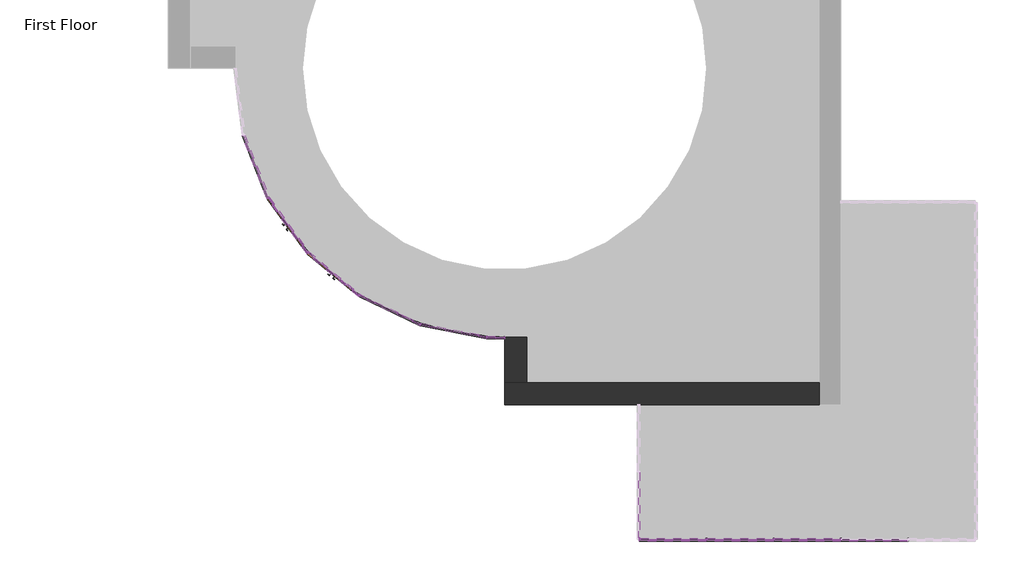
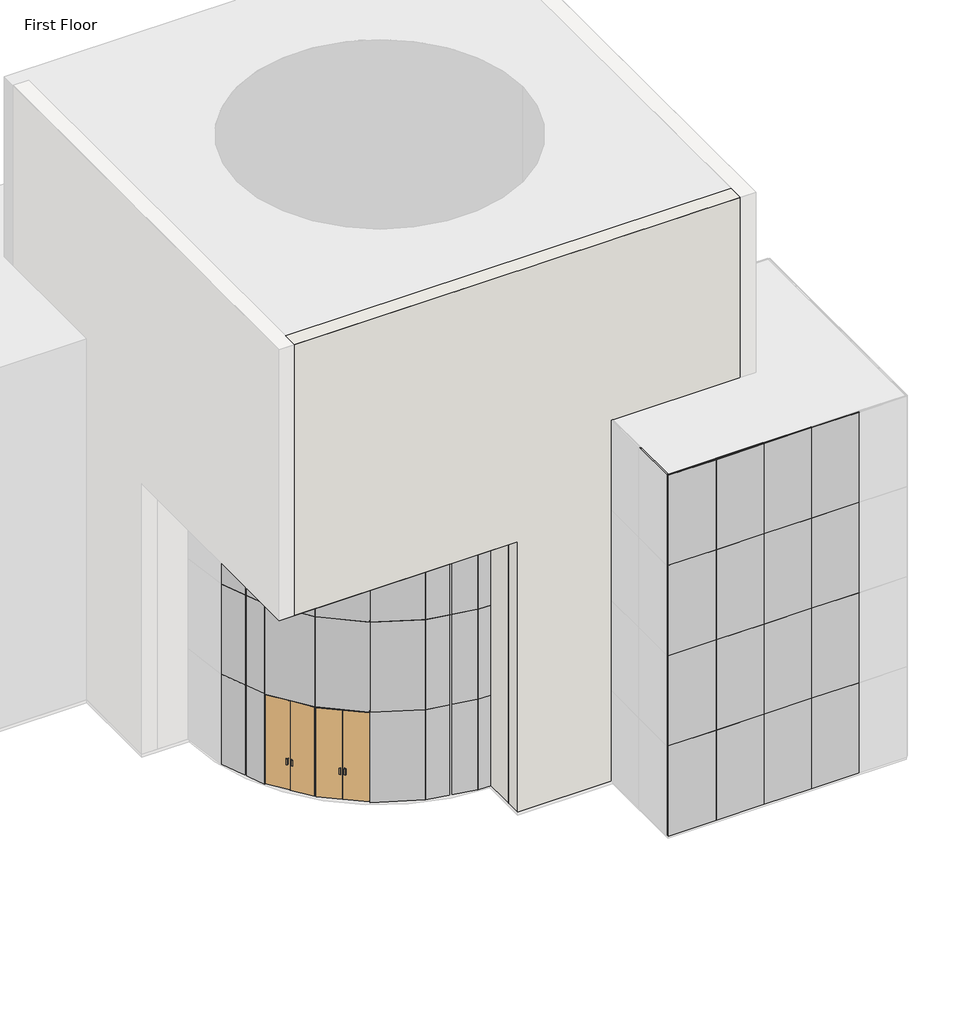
# One storey, part 1 of 4: 82 members, 32 plates, 2 doors, 2 walls.
"""IFC4 building model written with IfcOpenShell, lengths in millimetres."""

from ifc_helpers import new_model, si_unit, origin, origin_with_axes, place, context, project, spatial, polyline, outline, extrude, faceted_brep, transform, mapped, element, save
from components import curtain_wall_dbl_glass_curtain_wall_dbl_glass_35f7ff88, member_77cb5569, member_cbdb9076, member_648f3f05, member_cef3a68d, member_113f7001, member_7e523723, member_74941792, member_5e617a80, member_9fd3d903, member_6604d1e0, system_panel_glazed_9c75bc08, system_panel_glazed_737b14db

model = new_model("IFC4")

# Units and contexts
model_context = context("Model", 3, world=origin())
ifc_project = project(units=[si_unit("LENGTHUNIT", "METRE", prefix="MILLI")], contexts=[model_context])

# Site, building, storey
site = spatial("IfcSite", under=ifc_project)
building = spatial("IfcBuilding", under=site)
storey = spatial("IfcBuildingStorey", under=building, Name="First Floor", Elevation=0.0)

# Doors
placement = place(None, origin())
curtain_wall_dbl_glass_curtain_wall_dbl_glass_shape = curtain_wall_dbl_glass_curtain_wall_dbl_glass_35f7ff88(model_context)
element("IfcDoor", 1, ObjectType="Curtain Wall Dbl Glass : Curtain Wall Dbl Glass", at=placement, inside=storey, context=model_context, shape_type="MappedRepresentation", body=[
    mapped(curtain_wall_dbl_glass_curtain_wall_dbl_glass_shape, transform((-7106.6845747, -1462.9914641, 25.4), x_axis=(0.5864257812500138, -0.8100029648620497, 0.0), y_axis=(0.8100029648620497, 0.5864257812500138, 0.0), z_axis=(0.0, 0.0, 1.0))),
])
element("IfcDoor", 2, ObjectType="Curtain Wall Dbl Glass : Curtain Wall Dbl Glass", at=placement, inside=storey, context=model_context, shape_type="MappedRepresentation", body=[
    mapped(curtain_wall_dbl_glass_curtain_wall_dbl_glass_shape, transform((-6073.8406416, -2567.3098783, 25.4), x_axis=(0.7690124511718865, -0.6392337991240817, 0.0), y_axis=(0.6392337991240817, 0.7690124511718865, 0.0), z_axis=(0.0, 0.0, 1.0))),
])

# Members
member_shape = member_77cb5569(model_context)
element("IfcMember", 3, ObjectType="Rectangular Mullion : 1\" Square", at=placement, inside=storey, context=model_context, shape_type="MappedRepresentation", body=[
    mapped(member_shape, transform((-2233.0205773, -4011.3293923, 9144.0), x_axis=(0.0, 0.0, 1.0), y_axis=(-0.033424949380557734, -0.9994412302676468, 0.0), z_axis=(0.9994412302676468, -0.033424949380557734, 0.0))),
])
member_2_shape = member_cbdb9076(model_context)
element("IfcMember", 4, ObjectType="Rectangular Mullion : 1\" Square", at=placement, inside=storey, context=model_context, shape_type="MappedRepresentation", body=[
    mapped(member_2_shape, transform((-7553.54102, -845.7692049, 0.0), x_axis=(0.48057592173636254, -0.8769531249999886, 0.0), y_axis=(-0.8769531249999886, -0.48057592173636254, 0.0), z_axis=(0.0, 0.0, -1.0))),
])
element("IfcMember", 5, ObjectType="Rectangular Mullion : 1\" Square", at=placement, inside=storey, context=model_context, shape_type="MappedRepresentation", body=[
    mapped(member_2_shape, transform((-6659.8281294, -2080.2137233, 0.0), x_axis=(0.6830766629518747, -0.730346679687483, 0.0), y_axis=(-0.730346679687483, -0.6830766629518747, 0.0), z_axis=(0.0, 0.0, -1.0))),
])
element("IfcMember", 6, ObjectType="Rectangular Mullion : 1\" Square", at=placement, inside=storey, context=model_context, shape_type="MappedRepresentation", body=[
    mapped(member_2_shape, transform((-5487.8531538, -3054.4060332, 0.0), x_axis=(0.8428851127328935, -0.538093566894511, 0.0), y_axis=(-0.538093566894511, -0.8428851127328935, 0.0), z_axis=(0.0, 0.0, -1.0))),
])
element("IfcMember", 7, ObjectType="Rectangular Mullion : 1\" Square", at=placement, inside=storey, context=model_context, shape_type="MappedRepresentation", body=[
    mapped(member_2_shape, transform((-4110.8645292, -3707.4591151, 0.0), x_axis=(0.9500132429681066, -0.3122096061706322, 0.0), y_axis=(-0.3122096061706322, -0.9500132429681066, 0.0), z_axis=(0.0, 0.0, -1.0))),
])
element("IfcMember", 8, ObjectType="Rectangular Mullion : 1\" Square", at=placement, inside=storey, context=model_context, shape_type="MappedRepresentation", body=[
    mapped(member_2_shape, transform((-2614.9240447, -3998.5571515, 0.0), x_axis=(0.9977655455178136, -0.0668125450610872, 0.0), y_axis=(-0.0668125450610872, -0.9977655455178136, 0.0), z_axis=(0.0, 0.0, -1.0))),
])
element("IfcMember", 9, ObjectType="Rectangular Mullion : 1\" Square", at=placement, inside=storey, context=model_context, shape_type="MappedRepresentation", body=[
    mapped(member_2_shape, transform((2364.36523, -8584.178386, 0.0), x_axis=(1.0, 0.0, 0.0), y_axis=(0.0, -1.0, 0.0), z_axis=(0.0, 0.0, -1.0))),
])
element("IfcMember", 10, ObjectType="Rectangular Mullion : 1\" Square", at=placement, inside=storey, context=model_context, shape_type="MappedRepresentation", body=[
    mapped(member_2_shape, transform((3888.36523, -8584.178386, 0.0), x_axis=(1.0, 0.0, 0.0), y_axis=(0.0, -1.0, 0.0), z_axis=(0.0, 0.0, -1.0))),
])
element("IfcMember", 11, ObjectType="Rectangular Mullion : 1\" Square", at=placement, inside=storey, context=model_context, shape_type="MappedRepresentation", body=[
    mapped(member_2_shape, transform((5412.36523, -8584.178386, 0.0), x_axis=(1.0, 0.0, 0.0), y_axis=(0.0, -1.0, 0.0), z_axis=(0.0, 0.0, -1.0))),
])
element("IfcMember", 12, ObjectType="Rectangular Mullion : 1\" Square", at=placement, inside=storey, context=model_context, shape_type="MappedRepresentation", body=[
    mapped(member_2_shape, transform((6936.36523, -8584.178386, 0.0), x_axis=(1.0, 0.0, 0.0), y_axis=(0.0, -1.0, 0.0), z_axis=(0.0, 0.0, -1.0))),
])
member_3_shape = member_648f3f05(model_context)
element("IfcMember", 13, ObjectType="Rectangular Mullion : 1\" Square", at=placement, inside=storey, context=model_context, shape_type="MappedRepresentation", body=[
    mapped(member_3_shape, transform((-7558.2043013, -833.9563387, 3048.0), x_axis=(0.0, 0.0, 1.0), y_axis=(-0.9301469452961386, -0.36718750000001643, 0.0), z_axis=(0.36718750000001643, -0.9301469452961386, 0.0))),
])
element("IfcMember", 14, ObjectType="Rectangular Mullion : 1\" Square", at=placement, inside=storey, context=model_context, shape_type="MappedRepresentation", body=[
    mapped(member_3_shape, transform((-6667.2757368, -2069.9266857, 3048.0), x_axis=(0.0, 0.0, 1.0), y_axis=(-0.8100029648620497, -0.5864257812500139, 0.0), z_axis=(0.5864257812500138, -0.8100029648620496, 0.0))),
])
element("IfcMember", 15, ObjectType="Rectangular Mullion : 1\" Square", at=placement, inside=storey, context=model_context, shape_type="MappedRepresentation", body=[
    mapped(member_3_shape, transform((-5497.6196119, -3046.2877639, 3048.0), x_axis=(0.0, 0.0, 1.0), y_axis=(-0.6392337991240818, -0.7690124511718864, 0.0), z_axis=(0.7690124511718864, -0.6392337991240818, 0.0))),
])
element("IfcMember", 16, ObjectType="Rectangular Mullion : 1\" Square", at=placement, inside=storey, context=model_context, shape_type="MappedRepresentation", body=[
    mapped(member_3_shape, transform((-4122.3394344, -3702.0170061, 3048.0), x_axis=(0.0, 0.0, 1.0), y_axis=(-0.4285125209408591, -0.9035358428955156, 0.0), z_axis=(0.9035358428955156, -0.4285125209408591, 0.0))),
])
element("IfcMember", 17, ObjectType="Rectangular Mullion : 1\" Square", at=placement, inside=storey, context=model_context, shape_type="MappedRepresentation", body=[
    mapped(member_3_shape, transform((-2627.3902154, -3996.1313345, 3048.0), x_axis=(0.0, 0.0, 1.0), y_axis=(-0.19100921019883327, -0.9815882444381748, 0.0), z_axis=(0.9815882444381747, -0.19100921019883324, 0.0))),
])
element("IfcMember", 18, ObjectType="Rectangular Mullion : 1\" Square", at=placement, inside=storey, context=model_context, shape_type="MappedRepresentation", body=[
    mapped(member_3_shape, transform((-7558.2043013, -833.9563387, 6096.0), x_axis=(0.0, 0.0, 1.0), y_axis=(-0.9301469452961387, -0.36718750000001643, 0.0), z_axis=(0.3671875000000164, -0.9301469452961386, 0.0))),
])
element("IfcMember", 19, ObjectType="Rectangular Mullion : 1\" Square", at=placement, inside=storey, context=model_context, shape_type="MappedRepresentation", body=[
    mapped(member_3_shape, transform((-6667.2757368, -2069.9266857, 6096.0), x_axis=(0.0, 0.0, 1.0), y_axis=(-0.8100029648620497, -0.586425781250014, 0.0), z_axis=(0.5864257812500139, -0.8100029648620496, 0.0))),
])
element("IfcMember", 20, ObjectType="Rectangular Mullion : 1\" Square", at=placement, inside=storey, context=model_context, shape_type="MappedRepresentation", body=[
    mapped(member_3_shape, transform((-5497.6196119, -3046.2877639, 6096.0), x_axis=(0.0, 0.0, 1.0), y_axis=(-0.6392337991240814, -0.7690124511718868, 0.0), z_axis=(0.7690124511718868, -0.6392337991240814, 0.0))),
])
element("IfcMember", 21, ObjectType="Rectangular Mullion : 1\" Square", at=placement, inside=storey, context=model_context, shape_type="MappedRepresentation", body=[
    mapped(member_3_shape, transform((-4122.3394344, -3702.0170061, 6096.0), x_axis=(0.0, 0.0, 1.0), y_axis=(-0.42851252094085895, -0.9035358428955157, 0.0), z_axis=(0.9035358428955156, -0.4285125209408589, 0.0))),
])
element("IfcMember", 22, ObjectType="Rectangular Mullion : 1\" Square", at=placement, inside=storey, context=model_context, shape_type="MappedRepresentation", body=[
    mapped(member_3_shape, transform((-2627.3902154, -3996.1313345, 6096.0), x_axis=(0.0, 0.0, 1.0), y_axis=(-0.19100921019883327, -0.9815882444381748, 0.0), z_axis=(0.9815882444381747, -0.19100921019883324, 0.0))),
])
member_4_shape = member_cef3a68d(model_context)
element("IfcMember", 23, ObjectType="Rectangular Mullion : 1\" Square", at=placement, inside=storey, context=model_context, shape_type="MappedRepresentation", body=[
    mapped(member_4_shape, transform((-2233.0205773, -4011.3293923, 3048.0), x_axis=(0.0, 0.0, 1.0), y_axis=(-0.03342494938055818, -0.9994412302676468, 0.0), z_axis=(0.9994412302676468, -0.03342494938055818, 0.0))),
])
element("IfcMember", 24, ObjectType="Rectangular Mullion : 1\" Square", at=placement, inside=storey, context=model_context, shape_type="MappedRepresentation", body=[
    mapped(member_4_shape, transform((-2233.0205773, -4011.3293923, 6096.0), x_axis=(0.0, 0.0, 1.0), y_axis=(-0.03342494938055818, -0.9994412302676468, 0.0), z_axis=(0.9994412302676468, -0.03342494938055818, 0.0))),
])
member_5_shape = member_113f7001(model_context)
element("IfcMember", 25, ObjectType="Rectangular Mullion : 1\" Square", at=placement, inside=storey, context=model_context, shape_type="MappedRepresentation", body=[
    mapped(member_5_shape, transform((-7546.0934126, -856.0562425, 0.0), x_axis=(0.0, 0.0, -1.0), y_axis=(-0.8100029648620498, -0.5864257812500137, 0.0), z_axis=(-0.5864257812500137, 0.8100029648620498, 0.0))),
])
element("IfcMember", 26, ObjectType="Rectangular Mullion : 1\" Square", at=placement, inside=storey, context=model_context, shape_type="MappedRepresentation", body=[
    mapped(member_5_shape, transform((-6650.0616713, -2088.3319926, 0.0), x_axis=(0.0, 0.0, -1.0), y_axis=(-0.6392337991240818, -0.7690124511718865, 0.0), z_axis=(-0.7690124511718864, 0.6392337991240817, 0.0))),
])
element("IfcMember", 27, ObjectType="Rectangular Mullion : 1\" Square", at=placement, inside=storey, context=model_context, shape_type="MappedRepresentation", body=[
    mapped(member_5_shape, transform((-5476.3782486, -3059.8481422, 0.0), x_axis=(0.0, 0.0, -1.0), y_axis=(-0.4285125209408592, -0.9035358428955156, 0.0), z_axis=(-0.9035358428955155, 0.4285125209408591, 0.0))),
])
element("IfcMember", 28, ObjectType="Rectangular Mullion : 1\" Square", at=placement, inside=storey, context=model_context, shape_type="MappedRepresentation", body=[
    mapped(member_5_shape, transform((-4098.3983585, -3709.8849321, 0.0), x_axis=(0.0, 0.0, -1.0), y_axis=(-0.19100921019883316, -0.9815882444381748, 0.0), z_axis=(-0.9815882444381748, 0.19100921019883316, 0.0))),
])
element("IfcMember", 29, ObjectType="Rectangular Mullion : 1\" Square", at=placement, inside=storey, context=model_context, shape_type="MappedRepresentation", body=[
    mapped(member_shape, transform((-2602.2311411, -3998.9816483, 0.0), x_axis=(0.0, 0.0, -1.0), y_axis=(-0.033424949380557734, -0.9994412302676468, 0.0), z_axis=(-0.9994412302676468, 0.033424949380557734, 0.0))),
])
element("IfcMember", 30, ObjectType="Rectangular Mullion : 1\" Square", at=placement, inside=storey, context=model_context, shape_type="MappedRepresentation", body=[
    mapped(member_5_shape, transform((-7558.2043013, -833.9563387, 9144.0), x_axis=(0.0, 0.0, 1.0), y_axis=(-0.9301469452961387, -0.36718750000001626, 0.0), z_axis=(0.36718750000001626, -0.9301469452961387, 0.0))),
])
element("IfcMember", 31, ObjectType="Rectangular Mullion : 1\" Square", at=placement, inside=storey, context=model_context, shape_type="MappedRepresentation", body=[
    mapped(member_5_shape, transform((-6667.2757368, -2069.9266857, 9144.0), x_axis=(0.0, 0.0, 1.0), y_axis=(-0.8100029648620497, -0.5864257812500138, 0.0), z_axis=(0.5864257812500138, -0.8100029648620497, 0.0))),
])
element("IfcMember", 32, ObjectType="Rectangular Mullion : 1\" Square", at=placement, inside=storey, context=model_context, shape_type="MappedRepresentation", body=[
    mapped(member_5_shape, transform((-5497.6196119, -3046.2877639, 9144.0), x_axis=(0.0, 0.0, 1.0), y_axis=(-0.6392337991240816, -0.7690124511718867, 0.0), z_axis=(0.7690124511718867, -0.6392337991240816, 0.0))),
])
element("IfcMember", 33, ObjectType="Rectangular Mullion : 1\" Square", at=placement, inside=storey, context=model_context, shape_type="MappedRepresentation", body=[
    mapped(member_5_shape, transform((-4122.3394344, -3702.0170061, 9144.0), x_axis=(0.0, 0.0, 1.0), y_axis=(-0.42851252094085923, -0.9035358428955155, 0.0), z_axis=(0.9035358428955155, -0.42851252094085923, 0.0))),
])
element("IfcMember", 34, ObjectType="Rectangular Mullion : 1\" Square", at=placement, inside=storey, context=model_context, shape_type="MappedRepresentation", body=[
    mapped(member_5_shape, transform((-2627.3902154, -3996.1313345, 9144.0), x_axis=(0.0, 0.0, 1.0), y_axis=(-0.19100921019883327, -0.9815882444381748, 0.0), z_axis=(0.9815882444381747, -0.19100921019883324, 0.0))),
])
element("IfcMember", 35, ObjectType="Rectangular Mullion : 1\" Square", at=placement, inside=storey, context=model_context, shape_type="MappedRepresentation", body=[
    mapped(member_2_shape, transform((-7553.54102, -845.7692049, 3048.0), x_axis=(0.48057592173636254, -0.8769531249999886, 0.0), y_axis=(-0.8769531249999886, -0.48057592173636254, 0.0), z_axis=(0.0, 0.0, -1.0))),
])
element("IfcMember", 36, ObjectType="Rectangular Mullion : 1\" Square", at=placement, inside=storey, context=model_context, shape_type="MappedRepresentation", body=[
    mapped(member_2_shape, transform((-6659.8281294, -2080.2137233, 3048.0), x_axis=(0.6830766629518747, -0.730346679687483, 0.0), y_axis=(-0.730346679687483, -0.6830766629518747, 0.0), z_axis=(0.0, 0.0, -1.0))),
])
element("IfcMember", 37, ObjectType="Rectangular Mullion : 1\" Square", at=placement, inside=storey, context=model_context, shape_type="MappedRepresentation", body=[
    mapped(member_2_shape, transform((-5487.8531538, -3054.4060332, 3048.0), x_axis=(0.8428851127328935, -0.538093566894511, 0.0), y_axis=(-0.538093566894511, -0.8428851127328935, 0.0), z_axis=(0.0, 0.0, -1.0))),
])
element("IfcMember", 38, ObjectType="Rectangular Mullion : 1\" Square", at=placement, inside=storey, context=model_context, shape_type="MappedRepresentation", body=[
    mapped(member_2_shape, transform((-4110.8645292, -3707.4591151, 3048.0), x_axis=(0.9500132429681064, -0.3122096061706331, 0.0), y_axis=(-0.3122096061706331, -0.9500132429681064, 0.0), z_axis=(0.0, 0.0, -1.0))),
])
element("IfcMember", 39, ObjectType="Rectangular Mullion : 1\" Square", at=placement, inside=storey, context=model_context, shape_type="MappedRepresentation", body=[
    mapped(member_2_shape, transform((-2614.9240447, -3998.5571515, 3048.0), x_axis=(0.9977655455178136, -0.0668125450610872, 0.0), y_axis=(-0.0668125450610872, -0.9977655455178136, 0.0), z_axis=(0.0, 0.0, -1.0))),
])
element("IfcMember", 40, ObjectType="Rectangular Mullion : 1\" Square", at=placement, inside=storey, context=model_context, shape_type="MappedRepresentation", body=[
    mapped(member_2_shape, transform((2364.36523, -8584.178386, 3048.0), x_axis=(1.0, 0.0, 0.0), y_axis=(0.0, -1.0, 0.0), z_axis=(0.0, 0.0, -1.0))),
])
element("IfcMember", 41, ObjectType="Rectangular Mullion : 1\" Square", at=placement, inside=storey, context=model_context, shape_type="MappedRepresentation", body=[
    mapped(member_2_shape, transform((2364.36523, -8584.178386, 6096.0), x_axis=(1.0, 0.0, 0.0), y_axis=(0.0, -1.0, 0.0), z_axis=(0.0, 0.0, -1.0))),
])
element("IfcMember", 42, ObjectType="Rectangular Mullion : 1\" Square", at=placement, inside=storey, context=model_context, shape_type="MappedRepresentation", body=[
    mapped(member_2_shape, transform((3888.36523, -8584.178386, 3048.0), x_axis=(1.0, 0.0, 0.0), y_axis=(0.0, -1.0, 0.0), z_axis=(0.0, 0.0, -1.0))),
])
element("IfcMember", 43, ObjectType="Rectangular Mullion : 1\" Square", at=placement, inside=storey, context=model_context, shape_type="MappedRepresentation", body=[
    mapped(member_2_shape, transform((3888.36523, -8584.178386, 6096.0), x_axis=(1.0, 0.0, 0.0), y_axis=(0.0, -1.0, 0.0), z_axis=(0.0, 0.0, -1.0))),
])
element("IfcMember", 44, ObjectType="Rectangular Mullion : 1\" Square", at=placement, inside=storey, context=model_context, shape_type="MappedRepresentation", body=[
    mapped(member_2_shape, transform((5412.36523, -8584.178386, 3048.0), x_axis=(1.0, 0.0, 0.0), y_axis=(0.0, -1.0, 0.0), z_axis=(0.0, 0.0, -1.0))),
])
element("IfcMember", 45, ObjectType="Rectangular Mullion : 1\" Square", at=placement, inside=storey, context=model_context, shape_type="MappedRepresentation", body=[
    mapped(member_2_shape, transform((5412.36523, -8584.178386, 6096.0), x_axis=(1.0, 0.0, 0.0), y_axis=(0.0, -1.0, 0.0), z_axis=(0.0, 0.0, -1.0))),
])
element("IfcMember", 46, ObjectType="Rectangular Mullion : 1\" Square", at=placement, inside=storey, context=model_context, shape_type="MappedRepresentation", body=[
    mapped(member_2_shape, transform((-7553.54102, -845.7692049, 6096.0), x_axis=(0.48057592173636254, -0.8769531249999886, 0.0), y_axis=(-0.8769531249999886, -0.48057592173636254, 0.0), z_axis=(0.0, 0.0, -1.0))),
])
element("IfcMember", 47, ObjectType="Rectangular Mullion : 1\" Square", at=placement, inside=storey, context=model_context, shape_type="MappedRepresentation", body=[
    mapped(member_2_shape, transform((-6659.8281294, -2080.2137233, 6096.0), x_axis=(0.6830766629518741, -0.7303466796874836, 0.0), y_axis=(-0.7303466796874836, -0.6830766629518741, 0.0), z_axis=(0.0, 0.0, -1.0))),
])
element("IfcMember", 48, ObjectType="Rectangular Mullion : 1\" Square", at=placement, inside=storey, context=model_context, shape_type="MappedRepresentation", body=[
    mapped(member_2_shape, transform((-5487.8531538, -3054.4060332, 6096.0), x_axis=(0.8428851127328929, -0.5380935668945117, 0.0), y_axis=(-0.5380935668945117, -0.8428851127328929, 0.0), z_axis=(0.0, 0.0, -1.0))),
])
element("IfcMember", 49, ObjectType="Rectangular Mullion : 1\" Square", at=placement, inside=storey, context=model_context, shape_type="MappedRepresentation", body=[
    mapped(member_2_shape, transform((-4110.8645292, -3707.4591151, 6096.0), x_axis=(0.9500132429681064, -0.3122096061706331, 0.0), y_axis=(-0.3122096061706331, -0.9500132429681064, 0.0), z_axis=(0.0, 0.0, -1.0))),
])
element("IfcMember", 50, ObjectType="Rectangular Mullion : 1\" Square", at=placement, inside=storey, context=model_context, shape_type="MappedRepresentation", body=[
    mapped(member_2_shape, transform((-2614.9240447, -3998.5571515, 6096.0), x_axis=(0.9977655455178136, -0.0668125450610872, 0.0), y_axis=(-0.0668125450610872, -0.9977655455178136, 0.0), z_axis=(0.0, 0.0, -1.0))),
])
element("IfcMember", 51, ObjectType="Rectangular Mullion : 1\" Square", at=placement, inside=storey, context=model_context, shape_type="MappedRepresentation", body=[
    mapped(member_2_shape, transform((2364.36523, -8584.178386, 9144.0), x_axis=(1.0, 0.0, 0.0), y_axis=(0.0, -1.0, 0.0), z_axis=(0.0, 0.0, -1.0))),
])
element("IfcMember", 52, ObjectType="Rectangular Mullion : 1\" Square", at=placement, inside=storey, context=model_context, shape_type="MappedRepresentation", body=[
    mapped(member_2_shape, transform((3888.36523, -8584.178386, 9144.0), x_axis=(1.0, 0.0, 0.0), y_axis=(0.0, -1.0, 0.0), z_axis=(0.0, 0.0, -1.0))),
])
element("IfcMember", 53, ObjectType="Rectangular Mullion : 1\" Square", at=placement, inside=storey, context=model_context, shape_type="MappedRepresentation", body=[
    mapped(member_2_shape, transform((5412.36523, -8584.178386, 9144.0), x_axis=(1.0, 0.0, 0.0), y_axis=(0.0, -1.0, 0.0), z_axis=(0.0, 0.0, -1.0))),
])
member_6_shape = member_7e523723(model_context)
element("IfcMember", 54, ObjectType="Rectangular Mullion : 1\" Square", at=placement, inside=storey, context=model_context, shape_type="MappedRepresentation", body=[
    mapped(member_6_shape, transform((-2207.63477, -4012.178386, 0.0), x_axis=(0.9994412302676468, -0.033424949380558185, 0.0), y_axis=(-0.033424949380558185, -0.9994412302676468, 0.0), z_axis=(0.0, 0.0, -1.0))),
])
element("IfcMember", 55, ObjectType="Rectangular Mullion : 1\" Square", at=placement, inside=storey, context=model_context, shape_type="MappedRepresentation", body=[
    mapped(member_6_shape, transform((840.36523, -8584.178386, 0.0), x_axis=(0.0, -1.0, 0.0), y_axis=(-1.0, 0.0, 0.0), z_axis=(0.0, 0.0, -1.0))),
])
element("IfcMember", 56, ObjectType="Rectangular Mullion : 1\" Square", at=placement, inside=storey, context=model_context, shape_type="MappedRepresentation", body=[
    mapped(member_6_shape, transform((840.36523, -8584.178386, 12192.0), x_axis=(-1.0, 0.0, 0.0), y_axis=(0.0, -1.0, 0.0), z_axis=(0.0, 0.0, 1.0))),
])
element("IfcMember", 57, ObjectType="Rectangular Mullion : 1\" Square", at=placement, inside=storey, context=model_context, shape_type="MappedRepresentation", body=[
    mapped(member_6_shape, transform((840.36523, -8584.178386, 3048.0), x_axis=(-1.0, 0.0, 0.0), y_axis=(0.0, -1.0, 0.0), z_axis=(0.0, 0.0, 1.0))),
])
element("IfcMember", 58, ObjectType="Rectangular Mullion : 1\" Square", at=placement, inside=storey, context=model_context, shape_type="MappedRepresentation", body=[
    mapped(member_6_shape, transform((840.36523, -8584.178386, 6096.0), x_axis=(-1.0, 0.0, 0.0), y_axis=(0.0, -1.0, 0.0), z_axis=(0.0, 0.0, 1.0))),
])
element("IfcMember", 59, ObjectType="Rectangular Mullion : 1\" Square", at=placement, inside=storey, context=model_context, shape_type="MappedRepresentation", body=[
    mapped(member_6_shape, transform((840.36523, -8584.178386, 9144.0), x_axis=(-1.0, 0.0, 0.0), y_axis=(0.0, -1.0, 0.0), z_axis=(0.0, 0.0, 1.0))),
])
element("IfcMember", 60, ObjectType="Rectangular Mullion : 1\" Square", at=placement, inside=storey, context=model_context, shape_type="MappedRepresentation", body=[
    mapped(member_6_shape, transform((-2207.63477, -4012.178386, 3048.0), x_axis=(0.9994412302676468, -0.033424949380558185, 0.0), y_axis=(-0.033424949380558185, -0.9994412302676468, 0.0), z_axis=(0.0, 0.0, -1.0))),
])
element("IfcMember", 61, ObjectType="Rectangular Mullion : 1\" Square", at=placement, inside=storey, context=model_context, shape_type="MappedRepresentation", body=[
    mapped(member_6_shape, transform((840.36523, -8584.178386, 3048.0), x_axis=(0.0, -1.0, 0.0), y_axis=(-1.0, 0.0, 0.0), z_axis=(0.0, 0.0, -1.0))),
])
element("IfcMember", 62, ObjectType="Rectangular Mullion : 1\" Square", at=placement, inside=storey, context=model_context, shape_type="MappedRepresentation", body=[
    mapped(member_6_shape, transform((840.36523, -8584.178386, 6096.0), x_axis=(0.0, -1.0, 0.0), y_axis=(-1.0, 0.0, 0.0), z_axis=(0.0, 0.0, -1.0))),
])
element("IfcMember", 63, ObjectType="Rectangular Mullion : 1\" Square", at=placement, inside=storey, context=model_context, shape_type="MappedRepresentation", body=[
    mapped(member_6_shape, transform((-2207.63477, -4012.178386, 6096.0), x_axis=(0.9994412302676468, -0.033424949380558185, 0.0), y_axis=(-0.033424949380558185, -0.9994412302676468, 0.0), z_axis=(0.0, 0.0, -1.0))),
])
element("IfcMember", 64, ObjectType="Rectangular Mullion : 1\" Square", at=placement, inside=storey, context=model_context, shape_type="MappedRepresentation", body=[
    mapped(member_6_shape, transform((840.36523, -8584.178386, 9144.0), x_axis=(0.0, -1.0, 0.0), y_axis=(-1.0, 0.0, 0.0), z_axis=(0.0, 0.0, -1.0))),
])
member_7_shape = member_74941792(model_context)
element("IfcMember", 65, ObjectType="Rectangular Mullion : 1\" Square", at=placement, inside=storey, context=model_context, shape_type="MappedRepresentation", body=[
    mapped(member_7_shape, transform((2351.66523, -8584.178386, 12192.0), x_axis=(0.0, 0.0, 1.0), y_axis=(0.0, -1.0, 0.0), z_axis=(1.0, 0.0, 0.0))),
])
element("IfcMember", 66, ObjectType="Rectangular Mullion : 1\" Square", at=placement, inside=storey, context=model_context, shape_type="MappedRepresentation", body=[
    mapped(member_7_shape, transform((840.36523, -8558.778386, 12192.0), x_axis=(0.0, 0.0, 1.0), y_axis=(-1.0, 0.0, 0.0), z_axis=(0.0, -1.0, 0.0))),
])
element("IfcMember", 67, ObjectType="Rectangular Mullion : 1\" Square", at=placement, inside=storey, context=model_context, shape_type="MappedRepresentation", body=[
    mapped(member_7_shape, transform((865.76523, -8584.178386, 0.0), x_axis=(0.0, 0.0, -1.0), y_axis=(0.0, -1.0, 0.0), z_axis=(-1.0, 0.0, 0.0))),
])
member_8_shape = member_5e617a80(model_context)
element("IfcMember", 68, ObjectType="Rectangular Mullion : 1\" Square", at=placement, inside=storey, context=model_context, shape_type="MappedRepresentation", body=[
    mapped(member_8_shape, transform((2351.66523, -8584.178386, 3048.0), x_axis=(0.0, 0.0, 1.0), y_axis=(0.0, -1.0, 0.0), z_axis=(1.0, 0.0, 0.0))),
])
element("IfcMember", 69, ObjectType="Rectangular Mullion : 1\" Square", at=placement, inside=storey, context=model_context, shape_type="MappedRepresentation", body=[
    mapped(member_8_shape, transform((2351.66523, -8584.178386, 6096.0), x_axis=(0.0, 0.0, 1.0), y_axis=(0.0, -1.0, 0.0), z_axis=(1.0, 0.0, 0.0))),
])
element("IfcMember", 70, ObjectType="Rectangular Mullion : 1\" Square", at=placement, inside=storey, context=model_context, shape_type="MappedRepresentation", body=[
    mapped(member_8_shape, transform((2351.66523, -8584.178386, 9144.0), x_axis=(0.0, 0.0, 1.0), y_axis=(0.0, -1.0, 0.0), z_axis=(1.0, 0.0, 0.0))),
])
element("IfcMember", 71, ObjectType="Rectangular Mullion : 1\" Square", at=placement, inside=storey, context=model_context, shape_type="MappedRepresentation", body=[
    mapped(member_8_shape, transform((840.36523, -8558.778386, 3048.0), x_axis=(0.0, 0.0, 1.0), y_axis=(-1.0, 0.0, 0.0), z_axis=(0.0, -1.0, 0.0))),
])
element("IfcMember", 72, ObjectType="Rectangular Mullion : 1\" Square", at=placement, inside=storey, context=model_context, shape_type="MappedRepresentation", body=[
    mapped(member_8_shape, transform((840.36523, -8558.778386, 6096.0), x_axis=(0.0, 0.0, 1.0), y_axis=(-1.0, 0.0, 0.0), z_axis=(0.0, -1.0, 0.0))),
])
element("IfcMember", 73, ObjectType="Rectangular Mullion : 1\" Square", at=placement, inside=storey, context=model_context, shape_type="MappedRepresentation", body=[
    mapped(member_8_shape, transform((840.36523, -8558.778386, 9144.0), x_axis=(0.0, 0.0, 1.0), y_axis=(-1.0, 0.0, 0.0), z_axis=(0.0, -1.0, 0.0))),
])
member_9_shape = member_9fd3d903(model_context)
element("IfcMember", 74, ObjectType="Rectangular Mullion : 1\" Square", at=placement, inside=storey, context=model_context, shape_type="MappedRepresentation", body=[
    mapped(member_9_shape, transform((3875.66523, -8584.178386, 3048.0), x_axis=(0.0, 0.0, 1.0), y_axis=(0.0, -1.0, 0.0), z_axis=(1.0, 0.0, 0.0))),
])
element("IfcMember", 75, ObjectType="Rectangular Mullion : 1\" Square", at=placement, inside=storey, context=model_context, shape_type="MappedRepresentation", body=[
    mapped(member_9_shape, transform((5399.66523, -8584.178386, 3048.0), x_axis=(0.0, 0.0, 1.0), y_axis=(0.0, -1.0, 0.0), z_axis=(1.0, 0.0, 0.0))),
])
element("IfcMember", 76, ObjectType="Rectangular Mullion : 1\" Square", at=placement, inside=storey, context=model_context, shape_type="MappedRepresentation", body=[
    mapped(member_9_shape, transform((3875.66523, -8584.178386, 6096.0), x_axis=(0.0, 0.0, 1.0), y_axis=(0.0, -1.0, 0.0), z_axis=(1.0, 0.0, 0.0))),
])
element("IfcMember", 77, ObjectType="Rectangular Mullion : 1\" Square", at=placement, inside=storey, context=model_context, shape_type="MappedRepresentation", body=[
    mapped(member_9_shape, transform((5399.66523, -8584.178386, 6096.0), x_axis=(0.0, 0.0, 1.0), y_axis=(0.0, -1.0, 0.0), z_axis=(1.0, 0.0, 0.0))),
])
element("IfcMember", 78, ObjectType="Rectangular Mullion : 1\" Square", at=placement, inside=storey, context=model_context, shape_type="MappedRepresentation", body=[
    mapped(member_9_shape, transform((3875.66523, -8584.178386, 9144.0), x_axis=(0.0, 0.0, 1.0), y_axis=(0.0, -1.0, 0.0), z_axis=(1.0, 0.0, 0.0))),
])
element("IfcMember", 79, ObjectType="Rectangular Mullion : 1\" Square", at=placement, inside=storey, context=model_context, shape_type="MappedRepresentation", body=[
    mapped(member_9_shape, transform((5399.66523, -8584.178386, 9144.0), x_axis=(0.0, 0.0, 1.0), y_axis=(0.0, -1.0, 0.0), z_axis=(1.0, 0.0, 0.0))),
])
member_10_shape = member_6604d1e0(model_context)
element("IfcMember", 80, ObjectType="Rectangular Mullion : 1\" Square", at=placement, inside=storey, context=model_context, shape_type="MappedRepresentation", body=[
    mapped(member_10_shape, transform((2377.06523, -8584.178386, 0.0), x_axis=(0.0, 0.0, -1.0), y_axis=(0.0, -1.0, 0.0), z_axis=(-1.0, 0.0, 0.0))),
])
element("IfcMember", 81, ObjectType="Rectangular Mullion : 1\" Square", at=placement, inside=storey, context=model_context, shape_type="MappedRepresentation", body=[
    mapped(member_10_shape, transform((3901.06523, -8584.178386, 0.0), x_axis=(0.0, 0.0, -1.0), y_axis=(0.0, -1.0, 0.0), z_axis=(-1.0, 0.0, 0.0))),
])
element("IfcMember", 82, ObjectType="Rectangular Mullion : 1\" Square", at=placement, inside=storey, context=model_context, shape_type="MappedRepresentation", body=[
    mapped(member_10_shape, transform((5425.06523, -8584.178386, 0.0), x_axis=(0.0, 0.0, -1.0), y_axis=(0.0, -1.0, 0.0), z_axis=(-1.0, 0.0, 0.0))),
])
element("IfcMember", 83, ObjectType="Rectangular Mullion : 1\" Square", at=placement, inside=storey, context=model_context, shape_type="MappedRepresentation", body=[
    mapped(member_10_shape, transform((3875.66523, -8584.178386, 12192.0), x_axis=(0.0, 0.0, 1.0), y_axis=(0.0, -1.0, 0.0), z_axis=(1.0, 0.0, 0.0))),
])
element("IfcMember", 84, ObjectType="Rectangular Mullion : 1\" Square", at=placement, inside=storey, context=model_context, shape_type="MappedRepresentation", body=[
    mapped(member_10_shape, transform((5399.66523, -8584.178386, 12192.0), x_axis=(0.0, 0.0, 1.0), y_axis=(0.0, -1.0, 0.0), z_axis=(1.0, 0.0, 0.0))),
])

# Plates
system_panel_glazed_shape = system_panel_glazed_9c75bc08(model_context)
element("IfcPlate", 85, ObjectType="System Panel : Glazed", at=placement, inside=storey, context=model_context, shape_type="MappedRepresentation", body=[
    mapped(system_panel_glazed_shape, transform((1602.36523, -8584.178386, 0.0), x_axis=(1.0, 0.0, 0.0), y_axis=(0.0, 1.0, 0.0), z_axis=(0.0, 0.0, 1.0))),
])
element("IfcPlate", 86, ObjectType="System Panel : Glazed", at=placement, inside=storey, context=model_context, shape_type="MappedRepresentation", body=[
    mapped(system_panel_glazed_shape, transform((3126.36523, -8584.178386, 0.0), x_axis=(1.0, 0.0, 0.0), y_axis=(0.0, 1.0, 0.0), z_axis=(0.0, 0.0, 1.0))),
])
element("IfcPlate", 87, ObjectType="System Panel : Glazed", at=placement, inside=storey, context=model_context, shape_type="MappedRepresentation", body=[
    mapped(system_panel_glazed_shape, transform((4650.36523, -8584.178386, 0.0), x_axis=(1.0, 0.0, 0.0), y_axis=(0.0, 1.0, 0.0), z_axis=(0.0, 0.0, 1.0))),
])
element("IfcPlate", 88, ObjectType="System Panel : Glazed", at=placement, inside=storey, context=model_context, shape_type="MappedRepresentation", body=[
    mapped(system_panel_glazed_shape, transform((6174.36523, -8584.178386, 0.0), x_axis=(1.0, 0.0, 0.0), y_axis=(0.0, 1.0, 0.0), z_axis=(0.0, 0.0, 1.0))),
])
element("IfcPlate", 89, ObjectType="System Panel : Glazed", at=placement, inside=storey, context=model_context, shape_type="MappedRepresentation", body=[
    mapped(system_panel_glazed_shape, transform((1602.36523, -8584.178386, 3048.0), x_axis=(1.0, 0.0, 0.0), y_axis=(0.0, 1.0, 0.0), z_axis=(0.0, 0.0, 1.0))),
])
element("IfcPlate", 90, ObjectType="System Panel : Glazed", at=placement, inside=storey, context=model_context, shape_type="MappedRepresentation", body=[
    mapped(system_panel_glazed_shape, transform((3126.36523, -8584.178386, 3048.0), x_axis=(1.0, 0.0, 0.0), y_axis=(0.0, 1.0, 0.0), z_axis=(0.0, 0.0, 1.0))),
])
element("IfcPlate", 91, ObjectType="System Panel : Glazed", at=placement, inside=storey, context=model_context, shape_type="MappedRepresentation", body=[
    mapped(system_panel_glazed_shape, transform((4650.36523, -8584.178386, 3048.0), x_axis=(1.0, 0.0, 0.0), y_axis=(0.0, 1.0, 0.0), z_axis=(0.0, 0.0, 1.0))),
])
element("IfcPlate", 92, ObjectType="System Panel : Glazed", at=placement, inside=storey, context=model_context, shape_type="MappedRepresentation", body=[
    mapped(system_panel_glazed_shape, transform((6174.36523, -8584.178386, 3048.0), x_axis=(1.0, 0.0, 0.0), y_axis=(0.0, 1.0, 0.0), z_axis=(0.0, 0.0, 1.0))),
])
element("IfcPlate", 93, ObjectType="System Panel : Glazed", at=placement, inside=storey, context=model_context, shape_type="MappedRepresentation", body=[
    mapped(system_panel_glazed_shape, transform((1602.36523, -8584.178386, 6096.0), x_axis=(1.0, 0.0, 0.0), y_axis=(0.0, 1.0, 0.0), z_axis=(0.0, 0.0, 1.0))),
])
element("IfcPlate", 94, ObjectType="System Panel : Glazed", at=placement, inside=storey, context=model_context, shape_type="MappedRepresentation", body=[
    mapped(system_panel_glazed_shape, transform((3126.36523, -8584.178386, 6096.0), x_axis=(1.0, 0.0, 0.0), y_axis=(0.0, 1.0, 0.0), z_axis=(0.0, 0.0, 1.0))),
])
element("IfcPlate", 95, ObjectType="System Panel : Glazed", at=placement, inside=storey, context=model_context, shape_type="MappedRepresentation", body=[
    mapped(system_panel_glazed_shape, transform((4650.36523, -8584.178386, 6096.0), x_axis=(1.0, 0.0, 0.0), y_axis=(0.0, 1.0, 0.0), z_axis=(0.0, 0.0, 1.0))),
])
element("IfcPlate", 96, ObjectType="System Panel : Glazed", at=placement, inside=storey, context=model_context, shape_type="MappedRepresentation", body=[
    mapped(system_panel_glazed_shape, transform((6174.36523, -8584.178386, 6096.0), x_axis=(1.0, 0.0, 0.0), y_axis=(0.0, 1.0, 0.0), z_axis=(0.0, 0.0, 1.0))),
])
element("IfcPlate", 97, ObjectType="System Panel : Glazed", at=placement, inside=storey, context=model_context, shape_type="MappedRepresentation", body=[
    mapped(system_panel_glazed_shape, transform((1602.36523, -8584.178386, 9144.0), x_axis=(1.0, 0.0, 0.0), y_axis=(0.0, 1.0, 0.0), z_axis=(0.0, 0.0, 1.0))),
])
element("IfcPlate", 98, ObjectType="System Panel : Glazed", at=placement, inside=storey, context=model_context, shape_type="MappedRepresentation", body=[
    mapped(system_panel_glazed_shape, transform((3126.36523, -8584.178386, 9144.0), x_axis=(1.0, 0.0, 0.0), y_axis=(0.0, 1.0, 0.0), z_axis=(0.0, 0.0, 1.0))),
])
element("IfcPlate", 99, ObjectType="System Panel : Glazed", at=placement, inside=storey, context=model_context, shape_type="MappedRepresentation", body=[
    mapped(system_panel_glazed_shape, transform((4650.36523, -8584.178386, 9144.0), x_axis=(1.0, 0.0, 0.0), y_axis=(0.0, 1.0, 0.0), z_axis=(0.0, 0.0, 1.0))),
])
element("IfcPlate", 100, ObjectType="System Panel : Glazed", at=placement, inside=storey, context=model_context, shape_type="MappedRepresentation", body=[
    mapped(system_panel_glazed_shape, transform((6174.36523, -8584.178386, 9144.0), x_axis=(1.0, 0.0, 0.0), y_axis=(0.0, 1.0, 0.0), z_axis=(0.0, 0.0, 1.0))),
])
element("IfcPlate", 101, ObjectType="System Panel : Glazed", at=placement, inside=storey, context=model_context, shape_type="MappedRepresentation", body=[
    mapped(system_panel_glazed_shape, transform((-7833.337895, -136.9972326, 0.0), x_axis=(0.36718750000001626, -0.9301469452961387, 0.0), y_axis=(0.9301469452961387, 0.36718750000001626, 0.0), z_axis=(0.0, 0.0, 1.0))),
])
element("IfcPlate", 102, ObjectType="System Panel : Glazed", at=placement, inside=storey, context=model_context, shape_type="MappedRepresentation", body=[
    mapped(system_panel_glazed_shape, transform((-4799.3588415, -3380.9325742, 0.0), x_axis=(0.9035358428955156, -0.42851252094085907, 0.0), y_axis=(0.42851252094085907, 0.9035358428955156, 0.0), z_axis=(0.0, 0.0, 1.0))),
])
element("IfcPlate", 103, ObjectType="System Panel : Glazed", at=placement, inside=storey, context=model_context, shape_type="MappedRepresentation", body=[
    mapped(system_panel_glazed_shape, transform((-3362.894287, -3853.0081333, 0.0), x_axis=(0.9815882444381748, -0.19100921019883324, 0.0), y_axis=(0.19100921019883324, 0.9815882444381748, 0.0), z_axis=(0.0, 0.0, 1.0))),
])
element("IfcPlate", 104, ObjectType="System Panel : Glazed", at=placement, inside=storey, context=model_context, shape_type="MappedRepresentation", body=[
    mapped(system_panel_glazed_shape, transform((-7833.337895, -136.9972326, 3048.0), x_axis=(0.36718750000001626, -0.9301469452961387, 0.0), y_axis=(0.9301469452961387, 0.36718750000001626, 0.0), z_axis=(0.0, 0.0, 1.0))),
])
element("IfcPlate", 105, ObjectType="System Panel : Glazed", at=placement, inside=storey, context=model_context, shape_type="MappedRepresentation", body=[
    mapped(system_panel_glazed_shape, transform((-7106.6845747, -1462.9914641, 3048.0), x_axis=(0.5864257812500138, -0.8100029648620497, 0.0), y_axis=(0.8100029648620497, 0.5864257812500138, 0.0), z_axis=(0.0, 0.0, 1.0))),
])
element("IfcPlate", 106, ObjectType="System Panel : Glazed", at=placement, inside=storey, context=model_context, shape_type="MappedRepresentation", body=[
    mapped(system_panel_glazed_shape, transform((-6073.8406416, -2567.3098783, 3048.0), x_axis=(0.7690124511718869, -0.6392337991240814, 0.0), y_axis=(0.6392337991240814, 0.7690124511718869, 0.0), z_axis=(0.0, 0.0, 1.0))),
])
element("IfcPlate", 107, ObjectType="System Panel : Glazed", at=placement, inside=storey, context=model_context, shape_type="MappedRepresentation", body=[
    mapped(system_panel_glazed_shape, transform((-4799.3588415, -3380.9325742, 3048.0), x_axis=(0.9035358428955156, -0.42851252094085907, 0.0), y_axis=(0.42851252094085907, 0.9035358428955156, 0.0), z_axis=(0.0, 0.0, 1.0))),
])
element("IfcPlate", 108, ObjectType="System Panel : Glazed", at=placement, inside=storey, context=model_context, shape_type="MappedRepresentation", body=[
    mapped(system_panel_glazed_shape, transform((-3362.894287, -3853.0081333, 3048.0), x_axis=(0.9815882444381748, -0.19100921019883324, 0.0), y_axis=(0.19100921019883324, 0.9815882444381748, 0.0), z_axis=(0.0, 0.0, 1.0))),
])
element("IfcPlate", 109, ObjectType="System Panel : Glazed", at=placement, inside=storey, context=model_context, shape_type="MappedRepresentation", body=[
    mapped(system_panel_glazed_shape, transform((-7833.337895, -136.9972326, 6096.0), x_axis=(0.36718750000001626, -0.9301469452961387, 0.0), y_axis=(0.9301469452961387, 0.36718750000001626, 0.0), z_axis=(0.0, 0.0, 1.0))),
])
element("IfcPlate", 110, ObjectType="System Panel : Glazed", at=placement, inside=storey, context=model_context, shape_type="MappedRepresentation", body=[
    mapped(system_panel_glazed_shape, transform((-7106.6845747, -1462.9914641, 6096.0), x_axis=(0.586425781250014, -0.8100029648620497, 0.0), y_axis=(0.8100029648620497, 0.586425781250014, 0.0), z_axis=(0.0, 0.0, 1.0))),
])
element("IfcPlate", 111, ObjectType="System Panel : Glazed", at=placement, inside=storey, context=model_context, shape_type="MappedRepresentation", body=[
    mapped(system_panel_glazed_shape, transform((-6073.8406416, -2567.3098783, 6096.0), x_axis=(0.7690124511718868, -0.6392337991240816, 0.0), y_axis=(0.6392337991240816, 0.7690124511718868, 0.0), z_axis=(0.0, 0.0, 1.0))),
])
element("IfcPlate", 112, ObjectType="System Panel : Glazed", at=placement, inside=storey, context=model_context, shape_type="MappedRepresentation", body=[
    mapped(system_panel_glazed_shape, transform((-4799.3588415, -3380.9325742, 6096.0), x_axis=(0.9035358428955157, -0.42851252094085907, 0.0), y_axis=(0.42851252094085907, 0.9035358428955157, 0.0), z_axis=(0.0, 0.0, 1.0))),
])
element("IfcPlate", 113, ObjectType="System Panel : Glazed", at=placement, inside=storey, context=model_context, shape_type="MappedRepresentation", body=[
    mapped(system_panel_glazed_shape, transform((-3362.894287, -3853.0081333, 6096.0), x_axis=(0.9815882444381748, -0.19100921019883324, 0.0), y_axis=(0.19100921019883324, 0.9815882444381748, 0.0), z_axis=(0.0, 0.0, 1.0))),
])
system_panel_glazed_2_shape = system_panel_glazed_737b14db(model_context)
element("IfcPlate", 114, ObjectType="System Panel : Glazed", at=placement, inside=storey, context=model_context, shape_type="MappedRepresentation", body=[
    mapped(system_panel_glazed_2_shape, transform((-2411.2794074, -4005.3677687, 0.0), x_axis=(0.9994412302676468, -0.033424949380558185, 0.0), y_axis=(0.033424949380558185, 0.9994412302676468, 0.0), z_axis=(0.0, 0.0, 1.0))),
])
element("IfcPlate", 115, ObjectType="System Panel : Glazed", at=placement, inside=storey, context=model_context, shape_type="MappedRepresentation", body=[
    mapped(system_panel_glazed_2_shape, transform((-2411.2794074, -4005.3677687, 3048.0), x_axis=(0.9994412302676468, -0.033424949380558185, 0.0), y_axis=(0.033424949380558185, 0.9994412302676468, 0.0), z_axis=(0.0, 0.0, 1.0))),
])
element("IfcPlate", 116, ObjectType="System Panel : Glazed", at=placement, inside=storey, context=model_context, shape_type="MappedRepresentation", body=[
    mapped(system_panel_glazed_2_shape, transform((-2411.2794074, -4005.3677687, 6096.0), x_axis=(0.9994412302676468, -0.033424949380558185, 0.0), y_axis=(0.033424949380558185, 0.9994412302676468, 0.0), z_axis=(0.0, 0.0, 1.0))),
])

# Walls
element("IfcWall", 117, ObjectType="Exterior - Brick on CMU", at=placement, inside=storey, context=model_context, shape_type="Brep", body=[
    faceted_brep([(4917.06523, -5536.178386, 18288.0), (-9332.33477, -5536.178386, 18288.0), (-9332.33477, -5536.178386, 9144.0), (-2207.63477, -5536.178386, 9144.0), (-2207.63477, -5536.178386, 0.0), (4917.06523, -5536.178386, 0.0), (4917.06523, -5040.878386, 18288.0), (4917.06523, -5040.878386, 0.0), (-1712.33477, -5040.878386, 0.0), (-2207.63477, -5040.878386, 0.0), (-2207.63477, -5040.878386, 9144.0), (-9332.33477, -5040.878386, 9144.0), (-9332.33477, -5040.878386, 18288.0)], [[[0, 1, 2, 3, 4, 5]], [[6, 7, 8, 9, 10, 11, 12]], [[1, 0, 6, 12]], [[3, 2, 11, 10]], [[5, 4, 9, 8, 7]], [[0, 5, 7, 6]], [[2, 1, 12, 11]], [[4, 3, 10, 9]]]),
])
element("IfcWall", 118, ObjectType="Exterior - Brick on CMU", at=placement, inside=storey, context=model_context, shape_type="SweptSolid", body=[
    extrude(outline(polyline([(-1712.33477, -4012.178386), (-1712.33477, -5040.878386), (-2207.63477, -5040.878386), (-2207.63477, -4012.178386), (-1712.33477, -4012.178386)])), origin_with_axes(), (0.0, 0.0, 1.0), 9144.0),
])

save(model, "model.ifc")
